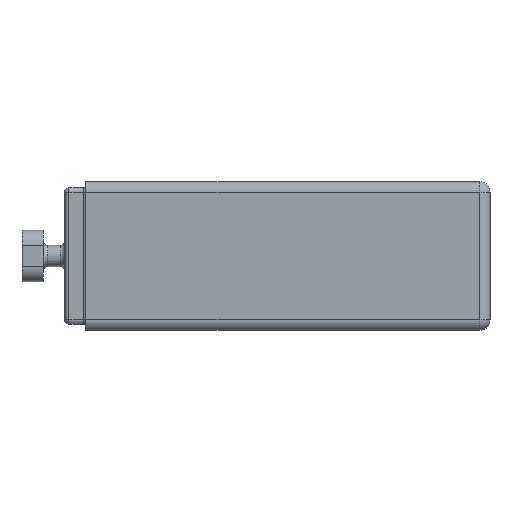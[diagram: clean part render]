
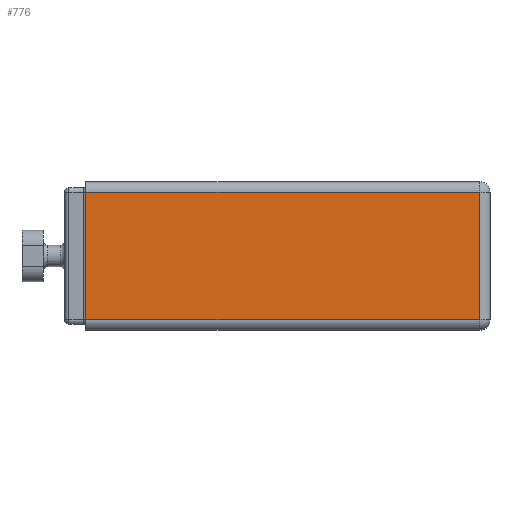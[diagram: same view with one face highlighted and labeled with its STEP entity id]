
A CAD part, top view. The second image highlights one B-rep face of the part: STEP entity #776.
In plain terms, the highlighted planar face has unit normal (0, 0, 1).
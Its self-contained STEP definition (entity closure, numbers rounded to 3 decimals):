
#86=FACE_OUTER_BOUND('',#141,.T.);
#141=EDGE_LOOP('',(#643,#644,#645,#646));
#196=LINE('',#1346,#251);
#200=LINE('',#1359,#255);
#201=LINE('',#1361,#256);
#202=LINE('',#1362,#257);
#251=VECTOR('',#1091,10.);
#255=VECTOR('',#1107,10.);
#256=VECTOR('',#1108,10.);
#257=VECTOR('',#1109,10.);
#373=VERTEX_POINT('',#1343);
#374=VERTEX_POINT('',#1345);
#377=VERTEX_POINT('',#1358);
#378=VERTEX_POINT('',#1360);
#464=EDGE_CURVE('',#374,#373,#196,.T.);
#470=EDGE_CURVE('',#377,#373,#200,.T.);
#471=EDGE_CURVE('',#378,#377,#201,.T.);
#472=EDGE_CURVE('',#374,#378,#202,.T.);
#643=ORIENTED_EDGE('',*,*,#464,.T.);
#644=ORIENTED_EDGE('',*,*,#470,.F.);
#645=ORIENTED_EDGE('',*,*,#471,.F.);
#646=ORIENTED_EDGE('',*,*,#472,.F.);
#738=PLANE('',#883);
#776=ADVANCED_FACE('',(#86),#738,.T.);
#883=AXIS2_PLACEMENT_3D('',#1357,#1105,#1106);
#1091=DIRECTION('',(0.,-1.,0.));
#1105=DIRECTION('center_axis',(0.,0.,1.));
#1106=DIRECTION('ref_axis',(1.,0.,0.));
#1107=DIRECTION('',(-1.,0.,0.));
#1108=DIRECTION('',(0.,-1.,0.));
#1109=DIRECTION('',(1.,0.,0.));
#1343=CARTESIAN_POINT('',(5.,-15.,7.25));
#1345=CARTESIAN_POINT('',(5.,15.,7.25));
#1346=CARTESIAN_POINT('',(5.,0.,7.25));
#1357=CARTESIAN_POINT('Origin',(50.,0.,7.25));
#1358=CARTESIAN_POINT('',(97.5,-15.,7.25));
#1359=CARTESIAN_POINT('',(25.,-15.,7.25));
#1360=CARTESIAN_POINT('',(97.5,15.,7.25));
#1361=CARTESIAN_POINT('',(97.5,-8.75,7.25));
#1362=CARTESIAN_POINT('',(75.,15.,7.25));
